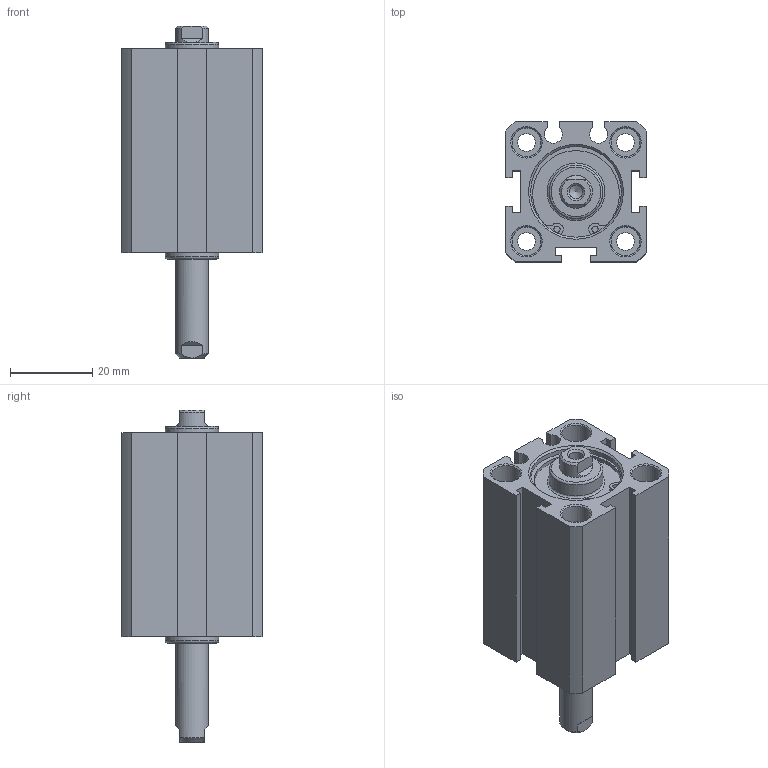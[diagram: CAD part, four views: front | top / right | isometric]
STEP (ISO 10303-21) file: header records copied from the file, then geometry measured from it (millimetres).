
FILE_DESCRIPTION((''),'2;1');
FILE_NAME('I:\3D電子目錄\氣缸\JDD\JDD-S\JDD20-S\JDD20x20-S.stp','2007-02-08T14:18:23',('662F206'),(''),'Autodesk Inventor 10','Autodesk Inventor 10','');
FILE_SCHEMA(('AUTOMOTIVE_DESIGN { 1 0 10303 214 1 1 1 1 }'));
Length unit declared in the file: millimetre
Products named in the file (3): JDD20-S; R 形環 23
Assembly tree (3 placements, depth 2):
  JDD20-S
    JDD20-S
    R 形環 23  x2
Bounding box: 34 x 34 x 80.5 mm (x, y, z)
Volume: 46619.2 mm3; surface area: 17044.1 mm2
Topology: 3 solids, 3 shells, 149 faces, 346 edges, 225 vertices
Faces by surface type: plane 70, cylinder 47, cone 18, bspline 12, torus 2
Full cylindrical faces by diameter (mm): 1.5 x6, 4.3 x4, 7 x8, 8 x1, 13 x2, 22 x4, 23.2 x2
Entity records: 3819 total; most frequent: CARTESIAN_POINT 813, DIRECTION 626, ORIENTED_EDGE 514, EDGE_CURVE 257, AXIS2_PLACEMENT_3D 246, EDGE_LOOP 220, VERTEX_POINT 195, FACE_OUTER_BOUND 137
